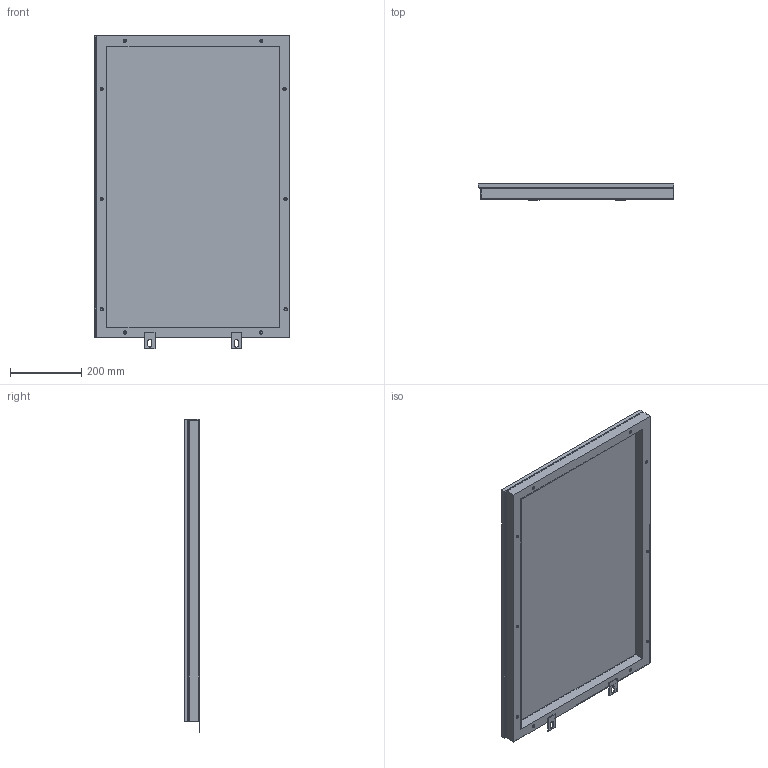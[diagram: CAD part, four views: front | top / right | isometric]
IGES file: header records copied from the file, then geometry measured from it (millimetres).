
Start section: SolidWorks IGES file using NURBS representation for surfaces
Global section: file name: G:\VICCARBE\PRODUCTOS\12-LEG-IN\04-MODELADOS (PLANOS)\SOLIDWORKS\LEG_IN 2011\ENSAMBLAJES\Mesas 3D\IGES\ACCESORIES\VICCARBE_LEB85C.IGS; native system: SolidWorks 2009; preprocessor: SolidWorks 2009; author: RUBEN; date: 111024.104456; units: millimetre
Bounding box: 550 x 44 x 880 mm (x, y, z)
Surface area: 1569496.7 mm2 (no closed solid volume)
Topology: 0 solids, 0 shells, 137 faces, 1536 edges, 1514 vertices
Faces by surface type: bspline 137
